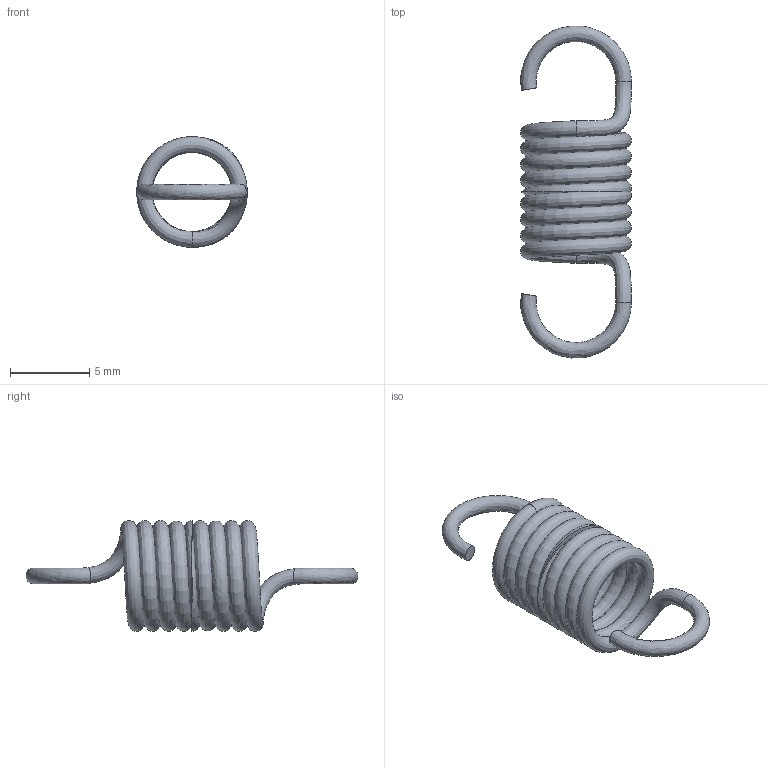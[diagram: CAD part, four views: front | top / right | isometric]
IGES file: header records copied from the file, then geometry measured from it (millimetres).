
Global section: file name: T10870; native system: Autodesk Inventor 2026; preprocessor: unknown; author: J. Iwanek; date: 20261005.095111; units: millimetre
Bounding box: 7 x 20.97 x 7 mm (x, y, z)
Volume: 144.3 mm3; surface area: 582.4 mm2
Topology: 1 solids, 1 shells, 10 faces, 32 edges, 20 vertices
Faces by surface type: bspline 10
